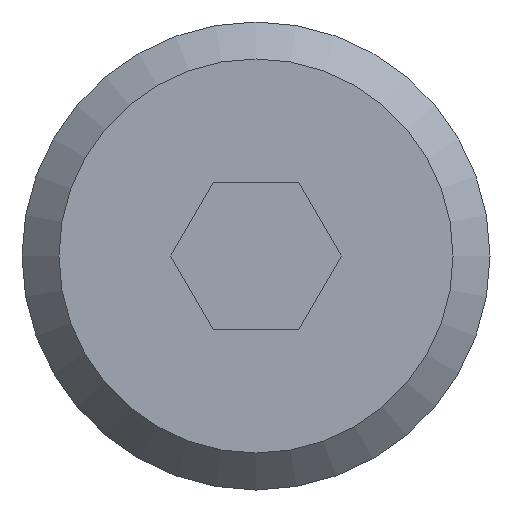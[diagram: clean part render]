
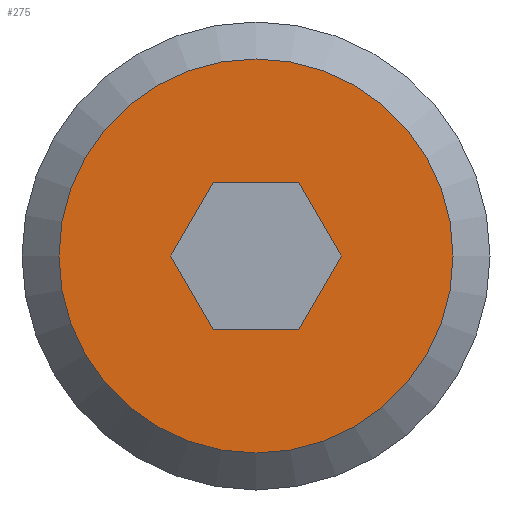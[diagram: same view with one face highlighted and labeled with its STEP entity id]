
A CAD part, left-side view. The second image highlights one B-rep face of the part: STEP entity #275.
In plain terms, the highlighted planar face has unit normal (-1, 0, 0).
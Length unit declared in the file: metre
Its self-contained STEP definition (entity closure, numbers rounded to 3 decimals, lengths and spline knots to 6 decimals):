
#20=PLANE('',#311);
#34=CIRCLE('',#310,0.004);
#78=ORIENTED_EDGE('',*,*,#132,.T.);
#79=ORIENTED_EDGE('',*,*,#133,.F.);
#80=ORIENTED_EDGE('',*,*,#134,.F.);
#81=ORIENTED_EDGE('',*,*,#135,.F.);
#82=ORIENTED_EDGE('',*,*,#136,.F.);
#83=ORIENTED_EDGE('',*,*,#137,.F.);
#84=ORIENTED_EDGE('',*,*,#138,.F.);
#132=EDGE_CURVE('',#163,#163,#34,.T.);
#133=EDGE_CURVE('',#164,#165,#178,.T.);
#134=EDGE_CURVE('',#166,#164,#179,.T.);
#135=EDGE_CURVE('',#167,#166,#180,.T.);
#136=EDGE_CURVE('',#168,#167,#181,.T.);
#137=EDGE_CURVE('',#169,#168,#182,.T.);
#138=EDGE_CURVE('',#165,#169,#183,.T.);
#163=VERTEX_POINT('',#8098);
#164=VERTEX_POINT('',#8101);
#165=VERTEX_POINT('',#8102);
#166=VERTEX_POINT('',#8104);
#167=VERTEX_POINT('',#8106);
#168=VERTEX_POINT('',#8108);
#169=VERTEX_POINT('',#8110);
#178=LINE('',#8100,#198);
#179=LINE('',#8103,#199);
#180=LINE('',#8105,#200);
#181=LINE('',#8107,#201);
#182=LINE('',#8109,#202);
#183=LINE('',#8111,#203);
#198=VECTOR('',#355,1.);
#199=VECTOR('',#356,1.);
#200=VECTOR('',#357,1.);
#201=VECTOR('',#358,1.);
#202=VECTOR('',#359,1.);
#203=VECTOR('',#360,1.);
#230=EDGE_LOOP('',(#78));
#231=EDGE_LOOP('',(#79,#80,#81,#82,#83,#84));
#253=FACE_BOUND('',#230,.T.);
#254=FACE_BOUND('',#231,.T.);
#275=ADVANCED_FACE('',(#253,#254),#20,.F.);
#310=AXIS2_PLACEMENT_3D('',#8097,#351,#352);
#311=AXIS2_PLACEMENT_3D('',#8099,#353,#354);
#351=DIRECTION('',(-1.,0.,0.));
#352=DIRECTION('',(0.,1.,0.));
#353=DIRECTION('',(1.,0.,0.));
#354=DIRECTION('',(0.,0.,-1.));
#355=DIRECTION('',(0.,1.,0.));
#356=DIRECTION('',(0.,0.5,0.866));
#357=DIRECTION('',(0.,-0.5,0.866));
#358=DIRECTION('',(0.,-1.,0.));
#359=DIRECTION('',(0.,-0.5,-0.866));
#360=DIRECTION('',(0.,0.5,-0.866));
#8097=CARTESIAN_POINT('',(-0.311692,0.01446,-0.223387));
#8098=CARTESIAN_POINT('',(-0.311692,0.01846,-0.223387));
#8099=CARTESIAN_POINT('',(-0.311692,0.01921,-0.223387));
#8100=CARTESIAN_POINT('',(-0.311692,0.013594,-0.221887));
#8101=CARTESIAN_POINT('',(-0.311692,0.013594,-0.221887));
#8102=CARTESIAN_POINT('',(-0.311692,0.015326,-0.221887));
#8103=CARTESIAN_POINT('',(-0.311692,0.012728,-0.223387));
#8104=CARTESIAN_POINT('',(-0.311692,0.012728,-0.223387));
#8105=CARTESIAN_POINT('',(-0.311692,0.013594,-0.224887));
#8106=CARTESIAN_POINT('',(-0.311692,0.013594,-0.224887));
#8107=CARTESIAN_POINT('',(-0.311692,0.015326,-0.224887));
#8108=CARTESIAN_POINT('',(-0.311692,0.015326,-0.224887));
#8109=CARTESIAN_POINT('',(-0.311692,0.016192,-0.223387));
#8110=CARTESIAN_POINT('',(-0.311692,0.016192,-0.223387));
#8111=CARTESIAN_POINT('',(-0.311692,0.015326,-0.221887));
